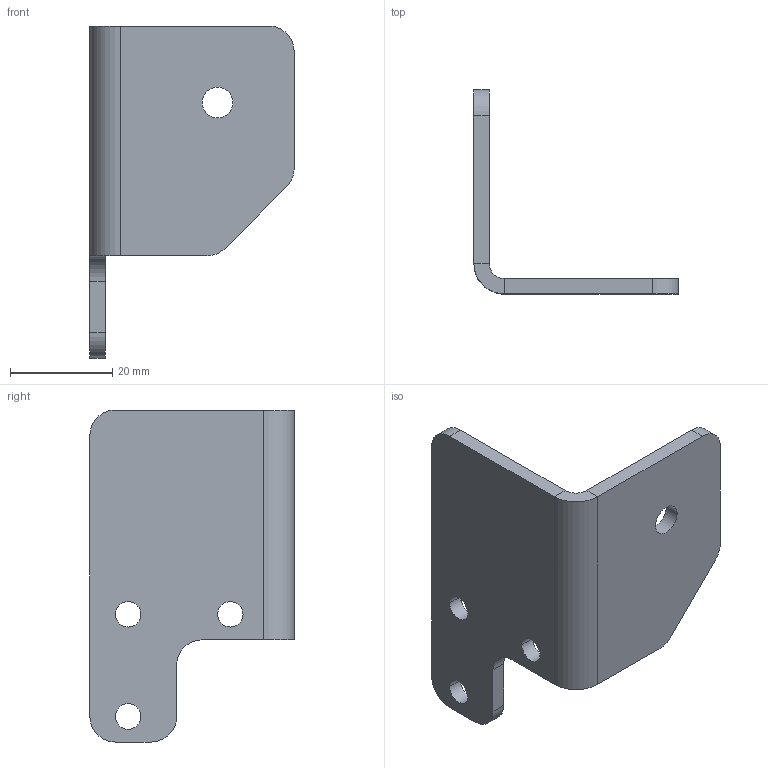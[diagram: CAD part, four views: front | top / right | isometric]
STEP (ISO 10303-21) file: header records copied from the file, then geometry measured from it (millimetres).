
FILE_DESCRIPTION((''),'2;1');
FILE_NAME('0000187195','2024-01-01T18:37:54',('Wyndorps'),(''),'CREO PARAMETRIC BY PTC INC, 2022484','CREO PARAMETRIC BY PTC INC, 2022484','');
FILE_SCHEMA(('CONFIG_CONTROL_DESIGN'));
Length unit declared in the file: millimetre
Products named in the file (1): 0000187195
Bounding box: 40 x 40 x 65 mm (x, y, z)
Volume: 10503.7 mm3; surface area: 7981 mm2
Topology: 1 solids, 1 shells, 32 faces, 82 edges, 52 vertices
Faces by surface type: cylinder 17, plane 15
Entity records: 1030 total; most frequent: DIRECTION 180, CARTESIAN_POINT 166, ORIENTED_EDGE 164, EDGE_CURVE 82, AXIS2_PLACEMENT_3D 66, VERTEX_POINT 52, VECTOR 48, LINE 48
